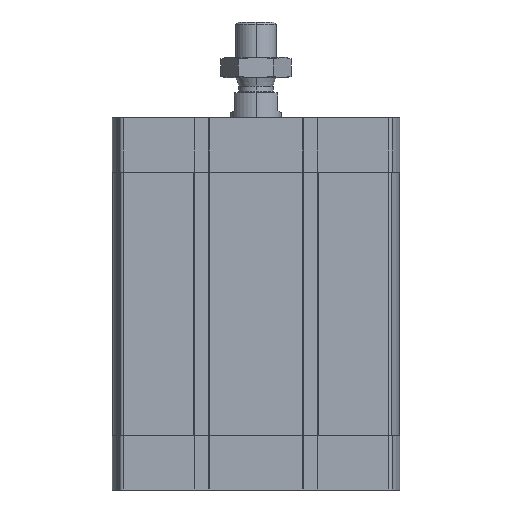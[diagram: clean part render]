
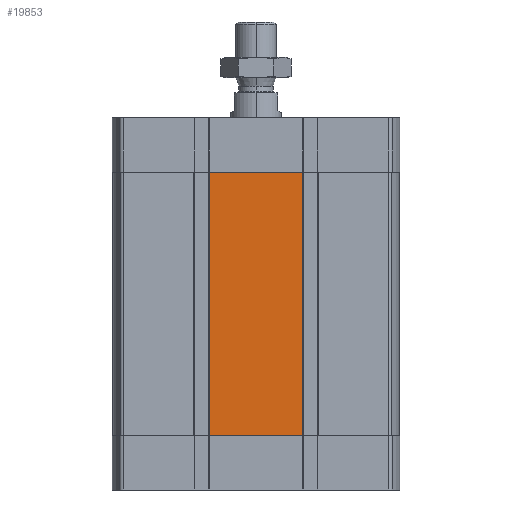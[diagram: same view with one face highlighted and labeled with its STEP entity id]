
A CAD part, left-side view. The second image highlights one B-rep face of the part: STEP entity #19853.
In plain terms, the highlighted planar face has unit normal (-1, 0, 0).
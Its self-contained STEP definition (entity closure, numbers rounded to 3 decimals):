
#412 = CARTESIAN_POINT ( 'NONE',  ( -56.5, 18.345, -21.5 ) ) ;
#1417 = FACE_OUTER_BOUND ( 'NONE', #10579, .T. ) ;
#1949 = CARTESIAN_POINT ( 'NONE',  ( -56.5, -18.345, -125.5 ) ) ;
#2503 = LINE ( 'NONE', #9052, #11766 ) ;
#2512 = ORIENTED_EDGE ( 'NONE', *, *, #18912, .T. ) ;
#3551 = DIRECTION ( 'NONE',  ( 0., 0., 1. ) ) ;
#5491 = EDGE_CURVE ( 'NONE', #15954, #15992, #10306, .T. ) ;
#5869 = CARTESIAN_POINT ( 'NONE',  ( -56.5, -18.345, -125.5 ) ) ;
#6453 = DIRECTION ( 'NONE',  ( -1., 0., 0. ) ) ;
#6666 = PLANE ( 'NONE',  #16961 ) ;
#6993 = DIRECTION ( 'NONE',  ( 0., 0., 1. ) ) ;
#7692 = VECTOR ( 'NONE', #6993, 1000. ) ;
#8709 = CARTESIAN_POINT ( 'NONE',  ( -56.5, 18.345, -125.5 ) ) ;
#9052 = CARTESIAN_POINT ( 'NONE',  ( -56.5, 18.345, -125.5 ) ) ;
#9711 = ORIENTED_EDGE ( 'NONE', *, *, #20007, .T. ) ;
#9782 = DIRECTION ( 'NONE',  ( 0., 0., 1. ) ) ;
#9987 = VECTOR ( 'NONE', #3551, 1000. ) ;
#10306 = LINE ( 'NONE', #20096, #10501 ) ;
#10501 = VECTOR ( 'NONE', #18481, 1000. ) ;
#10579 = EDGE_LOOP ( 'NONE', ( #11475, #11495, #2512, #9711 ) ) ;
#11385 = CARTESIAN_POINT ( 'NONE',  ( -56.5, 18.345, -125.5 ) ) ;
#11475 = ORIENTED_EDGE ( 'NONE', *, *, #5491, .F. ) ;
#11495 = ORIENTED_EDGE ( 'NONE', *, *, #19933, .F. ) ;
#11766 = VECTOR ( 'NONE', #20853, 1000. ) ;
#12799 = VERTEX_POINT ( 'NONE', #20854 ) ;
#14051 = LINE ( 'NONE', #1949, #9987 ) ;
#15954 = VERTEX_POINT ( 'NONE', #412 ) ;
#15992 = VERTEX_POINT ( 'NONE', #16616 ) ;
#16616 = CARTESIAN_POINT ( 'NONE',  ( -56.5, -18.345, -21.5 ) ) ;
#16770 = LINE ( 'NONE', #8709, #7692 ) ;
#16961 = AXIS2_PLACEMENT_3D ( 'NONE', #11385, #6453, #9782 ) ;
#17594 = VERTEX_POINT ( 'NONE', #5869 ) ;
#18481 = DIRECTION ( 'NONE',  ( 0., -1., 0. ) ) ;
#18912 = EDGE_CURVE ( 'NONE', #12799, #17594, #2503, .T. ) ;
#19853 = ADVANCED_FACE ( 'NONE', ( #1417 ), #6666, .T. ) ;
#19933 = EDGE_CURVE ( 'NONE', #12799, #15954, #16770, .T. ) ;
#20007 = EDGE_CURVE ( 'NONE', #17594, #15992, #14051, .T. ) ;
#20096 = CARTESIAN_POINT ( 'NONE',  ( -56.5, 18.345, -21.5 ) ) ;
#20853 = DIRECTION ( 'NONE',  ( 0., -1., 0. ) ) ;
#20854 = CARTESIAN_POINT ( 'NONE',  ( -56.5, 18.345, -125.5 ) ) ;
